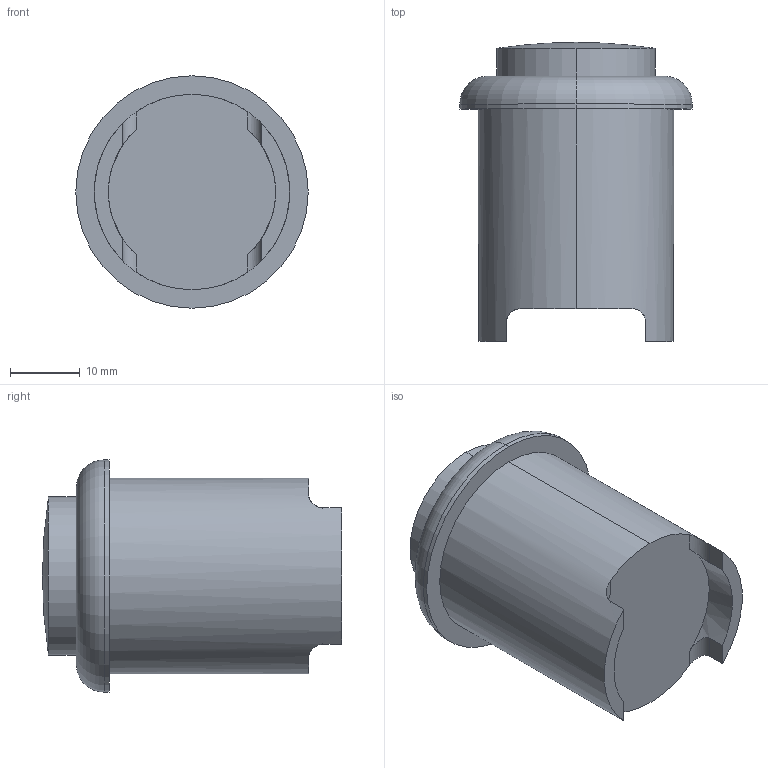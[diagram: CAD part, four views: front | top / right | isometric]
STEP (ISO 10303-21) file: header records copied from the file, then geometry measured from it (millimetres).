
FILE_DESCRIPTION (( 'STEP AP214' ), '1' );
FILE_NAME ('30mm_Button.STEP', '2018-05-10T20:40:41', ( '' ), ( '' ), 'SwSTEP 2.0', 'SolidWorks 2015', '' );
FILE_SCHEMA (( 'AUTOMOTIVE_DESIGN' ));
Length unit declared in the file: millimetre
Products named in the file (1): 30mm_Button
Bounding box: 33.3 x 42.85 x 33.3 mm (x, y, z)
Volume: 23495.4 mm3; surface area: 5244.2 mm2
Topology: 1 solids, 1 shells, 25 faces, 62 edges, 41 vertices
Faces by surface type: cylinder 12, plane 9, sphere 2, torus 2
Entity records: 890 total; most frequent: CARTESIAN_POINT 245, DIRECTION 134, ORIENTED_EDGE 124, EDGE_CURVE 62, AXIS2_PLACEMENT_3D 54, VERTEX_POINT 41, CIRCLE 28, EDGE_LOOP 27
